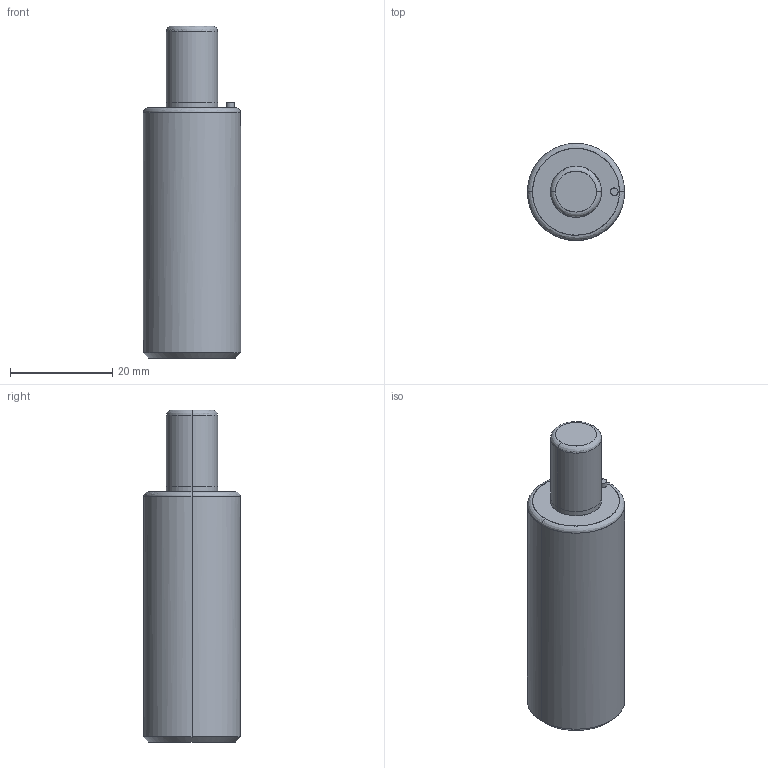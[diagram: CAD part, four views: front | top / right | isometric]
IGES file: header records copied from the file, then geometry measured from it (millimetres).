
Global section: file name: E:\UnigraphicsGraphicData\MISUMI_PRESS-PARTS\IGES\3d_mgsc19-15_04566_r00.igs; native system: NX V5.0; preprocessor: UGS NX IGES V5.0; author: MISUMI; date: 20110105.161435; units: millimetre
Bounding box: 19 x 18.98 x 65 mm (x, y, z)
Surface area: 4084.4 mm2 (no closed solid volume)
Topology: 0 solids, 0 shells, 24 faces, 136 edges, 134 vertices
Faces by surface type: bspline 24
